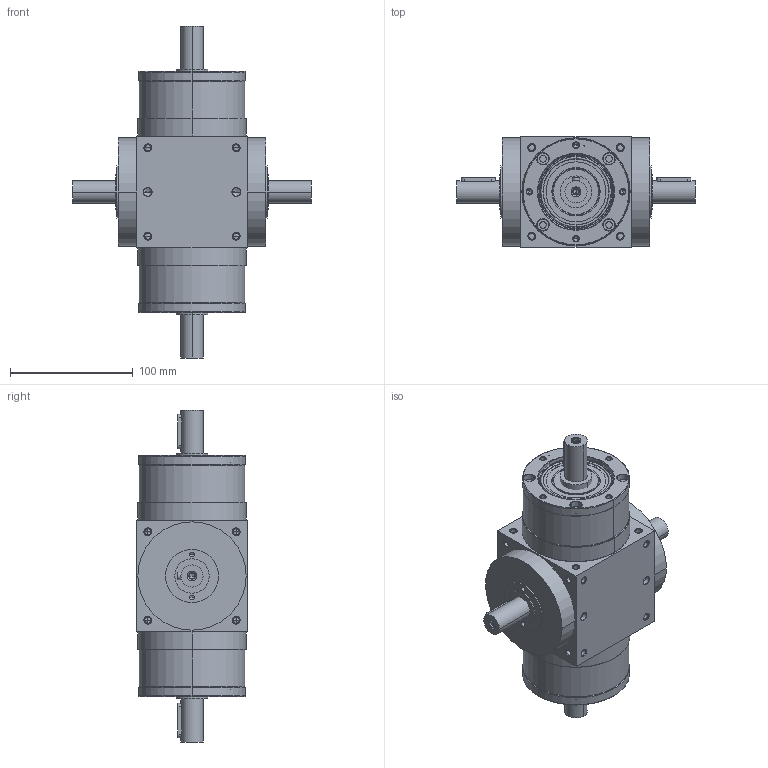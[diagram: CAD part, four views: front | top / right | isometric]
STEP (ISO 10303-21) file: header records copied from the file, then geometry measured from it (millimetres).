
FILE_DESCRIPTION((''),'2;1');
FILE_NAME('ATB0904M-1_ASM','2014-07-17T',('D00080'),(''),'PRO/ENGINEER BY PARAMETRIC TECHNOLOGY CORPORATION, 2008170','PRO/ENGINEER BY PARAMETRIC TECHNOLOGY CORPORATION, 2008170','');
FILE_SCHEMA(('CONFIG_CONTROL_DESIGN'));
Length unit declared in the file: millimetre
Products named in the file (4): ATB4M-HOUSING-1-4; P1820400001; 22400071004; ATB0904M-1_ASM
Assembly tree (5 placements, depth 2):
  ATB0904M-1_ASM
    ATB4M-HOUSING-1-4
    P1820400001  x2
    22400071004  x2
Bounding box: 194 x 90 x 270 mm (x, y, z)
Volume: 1356019.1 mm3; surface area: 181093.4 mm2
Topology: 7 solids, 43 shells, 796 faces, 1932 edges, 1144 vertices
Faces by surface type: cylinder 348, cone 264, plane 108, torus 68, bspline 8
Entity records: 18203 total; most frequent: CARTESIAN_POINT 3964, DIRECTION 3176, ORIENTED_EDGE 2716, EDGE_CURVE 1422, AXIS2_PLACEMENT_3D 1328, VERTEX_POINT 891, CIRCLE 718, EDGE_LOOP 707
